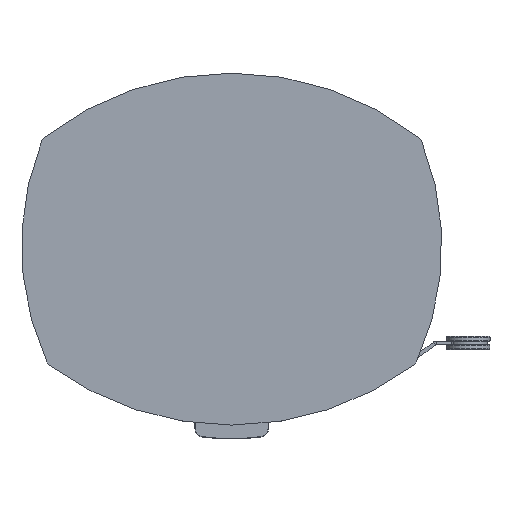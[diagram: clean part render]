
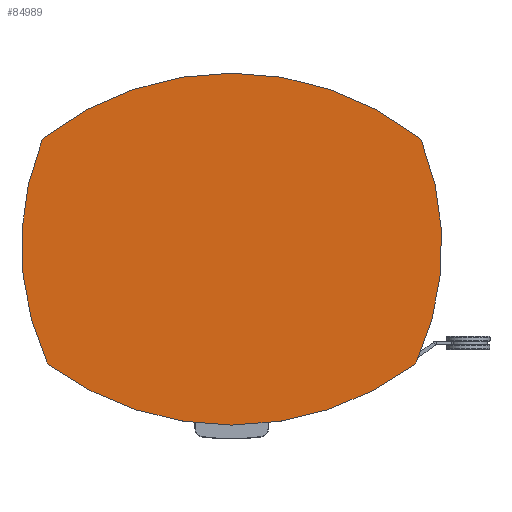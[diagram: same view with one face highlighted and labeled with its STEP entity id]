
A CAD part, top view. The second image highlights one B-rep face of the part: STEP entity #84989.
In plain terms, the highlighted planar face has unit normal (0, 0, 1).
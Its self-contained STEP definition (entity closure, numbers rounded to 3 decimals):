
#1796=PLANE('',#89519);
#4243=FACE_OUTER_BOUND('',#8730,.T.);
#8730=EDGE_LOOP('',(#54080,#54081,#54082,#54083,#54084,#54085,#54086,#54087));
#30427=CIRCLE('',#89518,10.);
#30428=CIRCLE('',#89520,355.);
#30429=CIRCLE('',#89521,10.);
#30430=CIRCLE('',#89522,323.);
#30431=CIRCLE('',#89523,10.);
#30432=CIRCLE('',#89524,352.);
#30433=CIRCLE('',#89525,10.);
#30434=CIRCLE('',#89526,323.);
#33777=VERTEX_POINT('',#120621);
#33778=VERTEX_POINT('',#120623);
#33779=VERTEX_POINT('',#120627);
#33780=VERTEX_POINT('',#120629);
#33781=VERTEX_POINT('',#120631);
#33782=VERTEX_POINT('',#120633);
#33783=VERTEX_POINT('',#120635);
#33784=VERTEX_POINT('',#120637);
#41608=EDGE_CURVE('',#33777,#33778,#30427,.T.);
#41610=EDGE_CURVE('',#33779,#33777,#30428,.T.);
#41611=EDGE_CURVE('',#33780,#33779,#30429,.T.);
#41612=EDGE_CURVE('',#33781,#33780,#30430,.T.);
#41613=EDGE_CURVE('',#33782,#33781,#30431,.T.);
#41614=EDGE_CURVE('',#33783,#33782,#30432,.T.);
#41615=EDGE_CURVE('',#33784,#33783,#30433,.T.);
#41616=EDGE_CURVE('',#33778,#33784,#30434,.T.);
#54080=ORIENTED_EDGE('',*,*,#41608,.F.);
#54081=ORIENTED_EDGE('',*,*,#41610,.F.);
#54082=ORIENTED_EDGE('',*,*,#41611,.F.);
#54083=ORIENTED_EDGE('',*,*,#41612,.F.);
#54084=ORIENTED_EDGE('',*,*,#41613,.F.);
#54085=ORIENTED_EDGE('',*,*,#41614,.F.);
#54086=ORIENTED_EDGE('',*,*,#41615,.F.);
#54087=ORIENTED_EDGE('',*,*,#41616,.F.);
#84989=ADVANCED_FACE('',(#4243),#1796,.F.);
#89518=AXIS2_PLACEMENT_3D('',#120624,#97096,#97097);
#89519=AXIS2_PLACEMENT_3D('',#120626,#97099,#97100);
#89520=AXIS2_PLACEMENT_3D('',#120628,#97101,#97102);
#89521=AXIS2_PLACEMENT_3D('',#120630,#97103,#97104);
#89522=AXIS2_PLACEMENT_3D('',#120632,#97105,#97106);
#89523=AXIS2_PLACEMENT_3D('',#120634,#97107,#97108);
#89524=AXIS2_PLACEMENT_3D('',#120636,#97109,#97110);
#89525=AXIS2_PLACEMENT_3D('',#120638,#97111,#97112);
#89526=AXIS2_PLACEMENT_3D('',#120639,#97113,#97114);
#97096=DIRECTION('center_axis',(0.,0.,
-1.));
#97097=DIRECTION('ref_axis',(-0.776,-0.631,0.));
#97099=DIRECTION('center_axis',(0.,0.,
-1.));
#97100=DIRECTION('ref_axis',(1.,0.,0.));
#97101=DIRECTION('center_axis',(0.,0.,
-1.));
#97102=DIRECTION('ref_axis',(0.599,-0.801,0.));
#97103=DIRECTION('center_axis',(0.,0.,
-1.));
#97104=DIRECTION('ref_axis',(0.776,-0.631,0.));
#97105=DIRECTION('center_axis',(0.,0.,
-1.));
#97106=DIRECTION('ref_axis',(0.924,0.382,0.));
#97107=DIRECTION('center_axis',(0.,0.,
-1.));
#97108=DIRECTION('ref_axis',(0.798,0.602,0.));
#97109=DIRECTION('center_axis',(0.,0.,
-1.));
#97110=DIRECTION('ref_axis',(-0.621,0.784,0.));
#97111=DIRECTION('center_axis',(0.,0.,
-1.));
#97112=DIRECTION('ref_axis',(-0.798,0.602,0.));
#97113=DIRECTION('center_axis',(0.,0.,
-1.));
#97114=DIRECTION('ref_axis',(-0.906,-0.424,0.));
#120621=CARTESIAN_POINT('',(-210.525,-285.84,354.));
#120623=CARTESIAN_POINT('',(-213.687,-281.95,354.));
#120624=CARTESIAN_POINT('Origin',(-204.595,-277.788,354.));
#120626=CARTESIAN_POINT('Origin',(0.,-151.453,
354.));
#120627=CARTESIAN_POINT('',(210.525,-285.84,354.));
#120628=CARTESIAN_POINT('Origin',(0.,0.,
354.));
#120629=CARTESIAN_POINT('',(213.687,-281.95,354.));
#120630=CARTESIAN_POINT('Origin',(204.595,-277.788,354.));
#120631=CARTESIAN_POINT('',(219.469,-26.473,354.));
#120632=CARTESIAN_POINT('Origin',(-80.,-147.5,354.));
#120633=CARTESIAN_POINT('',(216.343,-22.332,354.));
#120634=CARTESIAN_POINT('Origin',(210.197,-30.22,354.));
#120635=CARTESIAN_POINT('',(-216.343,-22.332,354.));
#120636=CARTESIAN_POINT('Origin',(0.,-300.,
354.));
#120637=CARTESIAN_POINT('',(-219.469,-26.473,354.));
#120638=CARTESIAN_POINT('Origin',(-210.197,-30.22,354.));
#120639=CARTESIAN_POINT('Origin',(80.,-147.5,354.));
